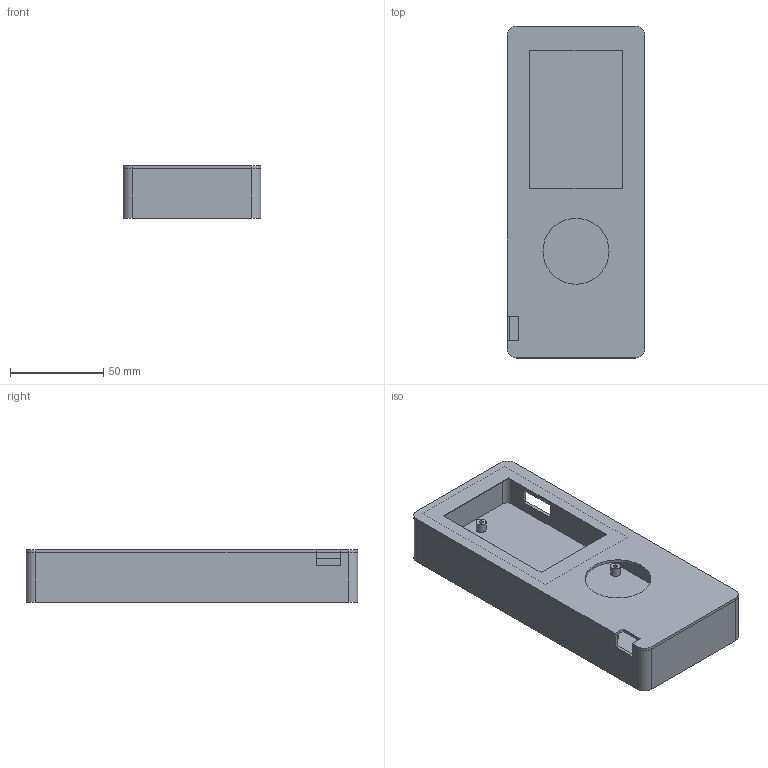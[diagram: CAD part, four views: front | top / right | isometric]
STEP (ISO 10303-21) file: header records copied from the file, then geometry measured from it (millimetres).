
FILE_DESCRIPTION(('Open CASCADE Model'),'2;1');
FILE_NAME('Open CASCADE Shape Model','2026-09-22T07:23:32',('Author'),( 'Open CASCADE'),'Open CASCADE STEP processor 7.9','Open CASCADE 7.9' ,'Unknown');
FILE_SCHEMA(('AUTOMOTIVE_DESIGN { 1 0 10303 214 1 1 1 1 }'));
Length unit declared in the file: millimetre
Products named in the file (3): Harmony_M6_fit_prototype; tray; front
Assembly tree (2 placements, depth 2):
  Harmony_M6_fit_prototype
    tray
    front
Bounding box: 74 x 178 x 28 mm (x, y, z)
Volume: 52820.7 mm3; surface area: 72566 mm2
Topology: 2 solids, 2 shells, 86 faces, 219 edges, 146 vertices
Faces by surface type: plane 57, cylinder 29
Full cylindrical faces by diameter (mm): 2.1 x4, 5.4 x4, 35.4 x1
Entity records: 5481 total; most frequent: CARTESIAN_POINT 1149, DIRECTION 756, ORIENTED_EDGE 438, PCURVE 438, DEFINITIONAL_REPRESENTATION 438, LINE 428, VECTOR 428, EDGE_CURVE 219
